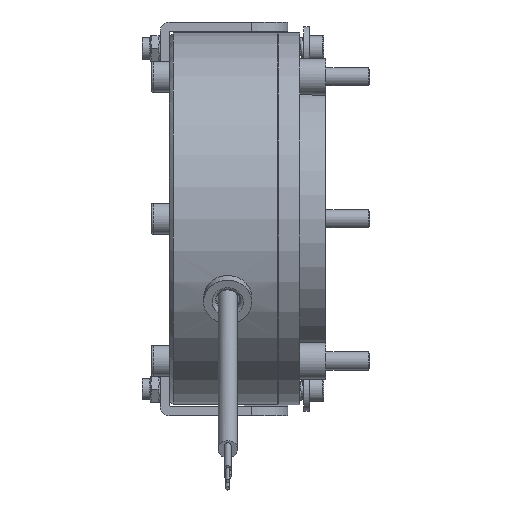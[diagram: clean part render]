
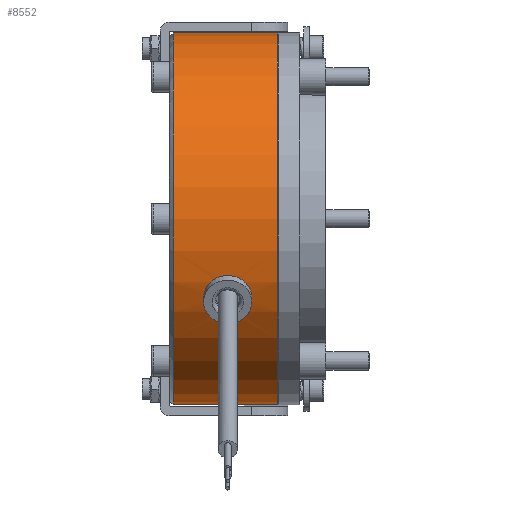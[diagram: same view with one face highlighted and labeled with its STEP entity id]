
A CAD part, front view. The second image highlights one B-rep face of the part: STEP entity #8552.
In plain terms, the highlighted cylindrical face has radius 51 mm (diameter 102 mm), a full revolution.
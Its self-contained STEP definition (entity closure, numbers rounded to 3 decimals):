
#172=B_SPLINE_CURVE_WITH_KNOTS('',3,(#15451,#15452,#15453,#15454,#15455,
#15456,#15457,#15458,#15459,#15460,#15461,#15462,#15463,#15464,#15465,#15466,
#15467,#15468,#15469),.UNSPECIFIED.,.F.,.F.,(4,2,2,2,3,2,2,2,4),(2.301,
2.492,2.684,2.876,3.067,3.259,
3.451,3.643,3.834),.UNSPECIFIED.);
#173=B_SPLINE_CURVE_WITH_KNOTS('',3,(#15472,#15473,#15474,#15475,#15476,
#15477,#15478,#15479,#15480,#15481,#15482,#15483,#15484,#15485,#15486,#15487,
#15488,#15489),.UNSPECIFIED.,.F.,.F.,(4,2,2,2,2,2,2,2,4),(0.767,
0.959,1.151,1.342,1.534,1.725,
1.916,2.108,2.301),.UNSPECIFIED.);
#402=CYLINDRICAL_SURFACE('',#9217,51.);
#588=FACE_BOUND('',#1795,.T.);
#764=CIRCLE('',#9093,51.);
#765=CIRCLE('',#9094,51.);
#825=CIRCLE('',#9204,51.);
#826=CIRCLE('',#9205,51.);
#1318=FACE_OUTER_BOUND('',#1794,.T.);
#1794=EDGE_LOOP('',(#6211,#6212,#6213,#6214,#6215,#6216));
#1795=EDGE_LOOP('',(#6217,#6218,#6219,#6220,#6221,#6222));
#2374=LINE('',#15446,#2847);
#2375=LINE('',#15449,#2848);
#2376=LINE('',#15471,#2849);
#2847=VECTOR('',#10700,51.);
#2848=VECTOR('',#10701,10.);
#2849=VECTOR('',#10702,10.);
#3383=VERTEX_POINT('',#14112);
#3384=VERTEX_POINT('',#14113);
#3483=VERTEX_POINT('',#15418);
#3484=VERTEX_POINT('',#15419);
#3494=VERTEX_POINT('',#15447);
#3495=VERTEX_POINT('',#15448);
#3496=VERTEX_POINT('',#15450);
#3497=VERTEX_POINT('',#15470);
#4353=EDGE_CURVE('',#3383,#3384,#764,.T.);
#4354=EDGE_CURVE('',#3384,#3383,#765,.T.);
#4494=EDGE_CURVE('',#3483,#3484,#825,.T.);
#4495=EDGE_CURVE('',#3484,#3483,#826,.T.);
#4508=EDGE_CURVE('',#3384,#3484,#2374,.T.);
#4509=EDGE_CURVE('',#3494,#3495,#2375,.T.);
#4510=EDGE_CURVE('',#3494,#3496,#172,.T.);
#4511=EDGE_CURVE('',#3496,#3497,#2376,.T.);
#4512=EDGE_CURVE('',#3496,#3494,#173,.T.);
#6211=ORIENTED_EDGE('',*,*,#4353,.F.);
#6212=ORIENTED_EDGE('',*,*,#4354,.F.);
#6213=ORIENTED_EDGE('',*,*,#4508,.T.);
#6214=ORIENTED_EDGE('',*,*,#4494,.F.);
#6215=ORIENTED_EDGE('',*,*,#4495,.F.);
#6216=ORIENTED_EDGE('',*,*,#4508,.F.);
#6217=ORIENTED_EDGE('',*,*,#4509,.T.);
#6218=ORIENTED_EDGE('',*,*,#4509,.F.);
#6219=ORIENTED_EDGE('',*,*,#4510,.T.);
#6220=ORIENTED_EDGE('',*,*,#4511,.T.);
#6221=ORIENTED_EDGE('',*,*,#4511,.F.);
#6222=ORIENTED_EDGE('',*,*,#4512,.T.);
#8552=ADVANCED_FACE('',(#1318,#588),#402,.T.);
#9093=AXIS2_PLACEMENT_3D('',#14114,#10398,#10399);
#9094=AXIS2_PLACEMENT_3D('',#14115,#10400,#10401);
#9204=AXIS2_PLACEMENT_3D('',#15420,#10669,#10670);
#9205=AXIS2_PLACEMENT_3D('',#15421,#10671,#10672);
#9217=AXIS2_PLACEMENT_3D('',#15445,#10698,#10699);
#10398=DIRECTION('center_axis',(1.,0.,0.));
#10399=DIRECTION('ref_axis',(0.,1.,0.));
#10400=DIRECTION('center_axis',(1.,0.,0.));
#10401=DIRECTION('ref_axis',(0.,1.,0.));
#10669=DIRECTION('center_axis',(-1.,0.,0.));
#10670=DIRECTION('ref_axis',(0.,-1.,0.));
#10671=DIRECTION('center_axis',(-1.,0.,0.));
#10672=DIRECTION('ref_axis',(0.,-1.,0.));
#10698=DIRECTION('center_axis',(1.,0.,0.));
#10699=DIRECTION('ref_axis',(0.,1.,0.));
#10700=DIRECTION('',(-1.,0.,0.));
#10701=DIRECTION('',(-1.,0.,0.));
#10702=DIRECTION('',(1.,0.,0.));
#14112=CARTESIAN_POINT('',(0.,0.,
51.));
#14113=CARTESIAN_POINT('',(0.,-51.,0.));
#14114=CARTESIAN_POINT('Origin',(0.,0.,
0.));
#14115=CARTESIAN_POINT('Origin',(0.,0.,
0.));
#15418=CARTESIAN_POINT('',(-28.6,51.,0.));
#15419=CARTESIAN_POINT('',(-28.6,-51.,0.));
#15420=CARTESIAN_POINT('Origin',(-28.6,0.,0.));
#15421=CARTESIAN_POINT('Origin',(-28.6,0.,0.));
#15445=CARTESIAN_POINT('Origin',(-14.8,0.,0.));
#15446=CARTESIAN_POINT('',(-14.8,-51.,0.));
#15447=CARTESIAN_POINT('',(-18.7,-46.222,-21.554));
#15448=CARTESIAN_POINT('',(-20.2,-46.222,-21.554));
#15449=CARTESIAN_POINT('',(0.,-46.222,-21.554));
#15450=CARTESIAN_POINT('',(-8.5,-46.222,-21.554));
#15451=CARTESIAN_POINT('Ctrl Pts',(-18.7,-46.222,
-21.554));
#15452=CARTESIAN_POINT('Ctrl Pts',(-18.7,-46.492,
-20.974));
#15453=CARTESIAN_POINT('Ctrl Pts',(-18.571,-46.768,
-20.351));
#15454=CARTESIAN_POINT('Ctrl Pts',(-18.048,-47.254,
-19.196));
#15455=CARTESIAN_POINT('Ctrl Pts',(-17.654,-47.464,
-18.665));
#15456=CARTESIAN_POINT('Ctrl Pts',(-16.747,-47.786,
-17.824));
#15457=CARTESIAN_POINT('Ctrl Pts',(-16.174,-47.92,-17.457));
#15458=CARTESIAN_POINT('Ctrl Pts',(-14.92,-48.094,-16.97));
#15459=CARTESIAN_POINT('Ctrl Pts',(-14.239,-48.136,
-16.85));
#15460=CARTESIAN_POINT('Ctrl Pts',(-13.6,-48.136,
-16.85));
#15461=CARTESIAN_POINT('Ctrl Pts',(-12.961,-48.136,
-16.85));
#15462=CARTESIAN_POINT('Ctrl Pts',(-12.28,-48.094,
-16.97));
#15463=CARTESIAN_POINT('Ctrl Pts',(-11.026,-47.92,
-17.457));
#15464=CARTESIAN_POINT('Ctrl Pts',(-10.453,-47.786,-17.824));
#15465=CARTESIAN_POINT('Ctrl Pts',(-9.546,-47.464,
-18.665));
#15466=CARTESIAN_POINT('Ctrl Pts',(-9.152,-47.254,
-19.196));
#15467=CARTESIAN_POINT('Ctrl Pts',(-8.629,-46.768,
-20.351));
#15468=CARTESIAN_POINT('Ctrl Pts',(-8.5,-46.492,
-20.974));
#15469=CARTESIAN_POINT('Ctrl Pts',(-8.5,-46.222,
-21.554));
#15470=CARTESIAN_POINT('',(-7.,-46.222,-21.554));
#15471=CARTESIAN_POINT('',(-14.8,-46.222,-21.554));
#15472=CARTESIAN_POINT('Ctrl Pts',(-8.5,-46.222,
-21.554));
#15473=CARTESIAN_POINT('Ctrl Pts',(-8.5,-45.951,
-22.133));
#15474=CARTESIAN_POINT('Ctrl Pts',(-8.629,-45.651,
-22.745));
#15475=CARTESIAN_POINT('Ctrl Pts',(-9.152,-45.079,
-23.859));
#15476=CARTESIAN_POINT('Ctrl Pts',(-9.546,-44.807,
-24.362));
#15477=CARTESIAN_POINT('Ctrl Pts',(-10.453,-44.37,-25.149));
#15478=CARTESIAN_POINT('Ctrl Pts',(-11.026,-44.175,
-25.487));
#15479=CARTESIAN_POINT('Ctrl Pts',(-12.28,-43.914,
-25.934));
#15480=CARTESIAN_POINT('Ctrl Pts',(-12.961,-43.849,
-26.043));
#15481=CARTESIAN_POINT('Ctrl Pts',(-14.238,-43.849,
-26.043));
#15482=CARTESIAN_POINT('Ctrl Pts',(-14.918,-43.914,
-25.935));
#15483=CARTESIAN_POINT('Ctrl Pts',(-16.171,-44.174,-25.489));
#15484=CARTESIAN_POINT('Ctrl Pts',(-16.743,-44.369,-25.152));
#15485=CARTESIAN_POINT('Ctrl Pts',(-17.651,-44.806,
-24.365));
#15486=CARTESIAN_POINT('Ctrl Pts',(-18.046,-45.078,
-23.862));
#15487=CARTESIAN_POINT('Ctrl Pts',(-18.571,-45.651,
-22.747));
#15488=CARTESIAN_POINT('Ctrl Pts',(-18.7,-45.951,
-22.134));
#15489=CARTESIAN_POINT('Ctrl Pts',(-18.7,-46.222,
-21.554));
